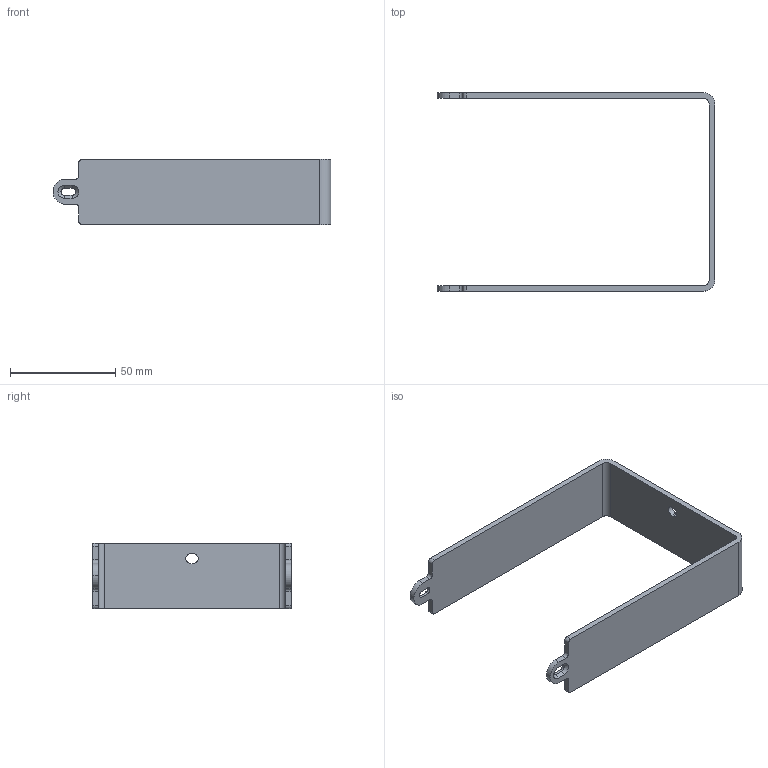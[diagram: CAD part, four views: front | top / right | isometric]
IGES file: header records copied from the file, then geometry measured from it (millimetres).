
Start section:  PTC IGES file: cu_mia-4sl.igs
Global section: file name: cu_mia-4sl.igs; native system: Creo Parametric by Parametric Technology Corporation; preprocessor: 2014000; author: jbuhisan; organization: Unknown; date: 20150708.132945; units: inch
Bounding box: 131.92 x 94.19 x 31 mm (x, y, z)
Surface area: 22633.4 mm2 (no closed solid volume)
Topology: 0 solids, 0 shells, 51 faces, 278 edges, 278 vertices
Faces by surface type: bspline 26, revolution 25
